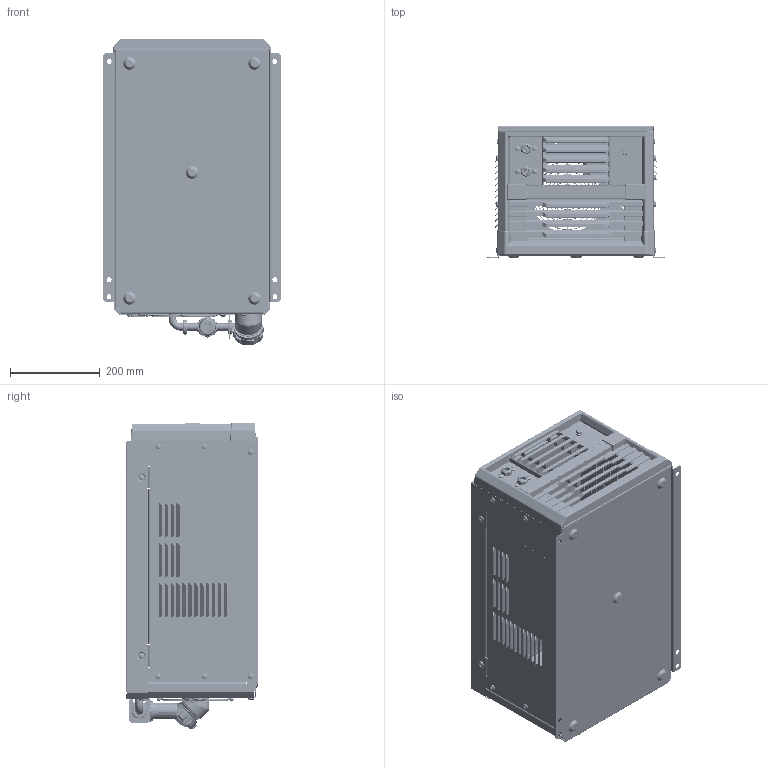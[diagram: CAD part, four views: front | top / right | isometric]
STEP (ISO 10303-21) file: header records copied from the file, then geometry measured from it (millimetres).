
FILE_DESCRIPTION (( 'STEP AP214' ), '1' );
FILE_NAME ('301788_COOLMATE_3-5.STEP', '2024-10-25T13:59:56', ( '' ), ( '' ), 'SwSTEP 2.0', 'SolidWorks 2022', '' );
FILE_SCHEMA (( 'AUTOMOTIVE_DESIGN' ));
Length unit declared in the file: inch
Products named in the file (78): 227147_Rev A Torx; 039116; 226940; 293336; 215667; 10031-24; 292735; 10229-85B; 195666_Rev A Torx; 10028-06; 254162; 163562; 301788_COOLMATE_3-5; 10229-87B; 292736; 292734; 292742; 292737; 089799; 292733; 215667-4; 215667-3; 224433_default; 286013; 10229-84; 172684; 10229-82; 602203; 286014; 10229-83; 196312; 132729; 094263; 286016; 10029-10; 215667-2; 291082; LEAD FOR 228551; 215667-1; 10229-86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
Assembly tree (69 placements, depth 4):
  039116
  10031-24
  195666_Rev A Torx
  10028-06
  301788_COOLMATE_3-5
    292733
    292334
    292734
    292735
    292737
    292736
    292742
    196312
    291082
    286017
      286016
      277711  x2
      286013
      286014
      094263  x2
      215667
        215667-1
        215667-2
        215667-3
        215667-4
    163562
    226940
      10229-87B
      10229-84
        10229-85B
      10029-10
    226940
      10229-87B
      10229-84
        10229-85B
      10029-10
    254162
    227147_Rev A Torx
    227147_Rev A Torx
    227147_Rev A Torx
    227147_Rev A Torx
    227147_Rev A Torx
    227147_Rev A Torx
    227147_Rev A Torx
    227147_Rev A Torx
    227147_Rev A Torx
    227147_Rev A Torx
    227147_Rev A Torx
    227147_Rev A Torx
    227147_Rev A Torx
    227147_Rev A Torx
    227147_Rev A Torx
    227147_Rev A Torx
    227147_Rev A Torx
    227147_Rev A Torx
    227147_Rev A Torx
    227147_Rev A Torx
    227147_Rev A Torx
    195666_Rev A Torx  x2
    224433_default  x2
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Bounding box: 396.09 x 296.11 x 685.32 mm (x, y, z)
Volume: 2353753 mm3; surface area: 2564902.8 mm2
Topology: 66 solids, 66 shells, 5994 faces, 14906 edges, 8990 vertices
Faces by surface type: cylinder 2453, plane 1814, bspline 1078, torus 323, sphere 166, cone 160
Entity records: 211372 total; most frequent: CARTESIAN_POINT 76490, ORIENTED_EDGE 29066, DIRECTION 25748, EDGE_CURVE 14533, AXIS2_PLACEMENT_3D 9639, VERTEX_POINT 8810, VECTOR 6470, LINE 6470
